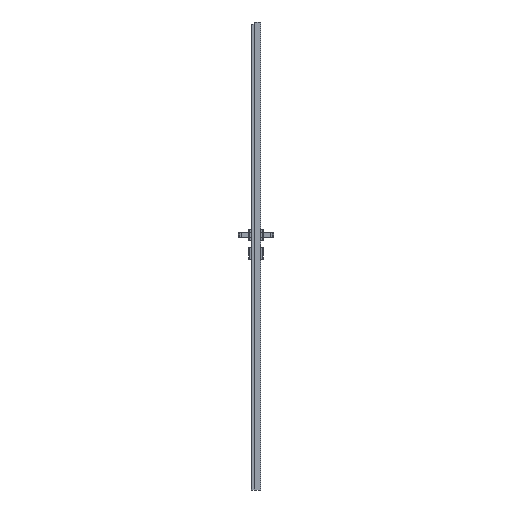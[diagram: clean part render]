
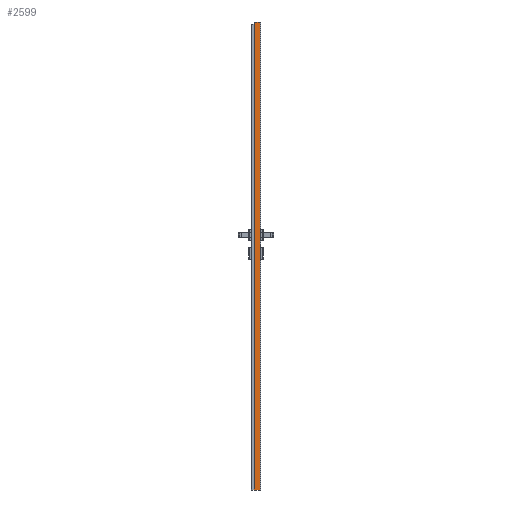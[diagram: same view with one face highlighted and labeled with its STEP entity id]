
A CAD part, left-side view. The second image highlights one B-rep face of the part: STEP entity #2599.
In plain terms, the highlighted planar face has unit normal (-1, 0, 0).
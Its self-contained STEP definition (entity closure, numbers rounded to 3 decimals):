
#2599=ADVANCED_FACE('',(#4909),#4059,.F.);
#4059=PLANE('',#25507);
#4909=FACE_OUTER_BOUND('',#6313,.T.);
#6313=EDGE_LOOP('',(#9864,#9865,#9866,#9867));
#9864=ORIENTED_EDGE('',*,*,#17964,.T.);
#9865=ORIENTED_EDGE('',*,*,#17965,.T.);
#9866=ORIENTED_EDGE('',*,*,#17942,.T.);
#9867=ORIENTED_EDGE('',*,*,#17963,.T.);
#15395=VERTEX_POINT('',#36115);
#15396=VERTEX_POINT('',#36116);
#15410=VERTEX_POINT('',#36151);
#15411=VERTEX_POINT('',#36155);
#17942=EDGE_CURVE('',#15395,#15396,#21450,.T.);
#17963=EDGE_CURVE('',#15396,#15410,#21468,.T.);
#17964=EDGE_CURVE('',#15410,#15411,#21469,.T.);
#17965=EDGE_CURVE('',#15411,#15395,#21470,.T.);
#21450=LINE('',#36114,#23874);
#21468=LINE('',#36152,#23892);
#21469=LINE('',#36154,#23893);
#21470=LINE('',#36156,#23894);
#23874=VECTOR('',#29179,1.);
#23892=VECTOR('',#29205,1.);
#23893=VECTOR('',#29208,1.);
#23894=VECTOR('',#29209,1.);
#25507=AXIS2_PLACEMENT_3D('',#36157,#29210,#29211);
#29179=DIRECTION('',(0.,0.,-1.));
#29205=DIRECTION('',(0.,-1.,0.));
#29208=DIRECTION('',(0.,0.,1.));
#29209=DIRECTION('',(0.,1.,0.));
#29210=DIRECTION('',(1.,0.,0.));
#29211=DIRECTION('',(0.,0.,-1.));
#36114=CARTESIAN_POINT('',(-319.5,-13.,2070.));
#36115=CARTESIAN_POINT('',(-319.5,-13.,2027.));
#36116=CARTESIAN_POINT('',(-319.5,-13.,0.));
#36151=CARTESIAN_POINT('',(-319.5,-38.85,0.));
#36152=CARTESIAN_POINT('',(-319.5,-13.,0.));
#36154=CARTESIAN_POINT('',(-319.5,-38.85,0.));
#36155=CARTESIAN_POINT('',(-319.5,-38.85,2027.));
#36156=CARTESIAN_POINT('',(-319.5,-39.85,2027.));
#36157=CARTESIAN_POINT('',(-319.5,-13.,2070.));
